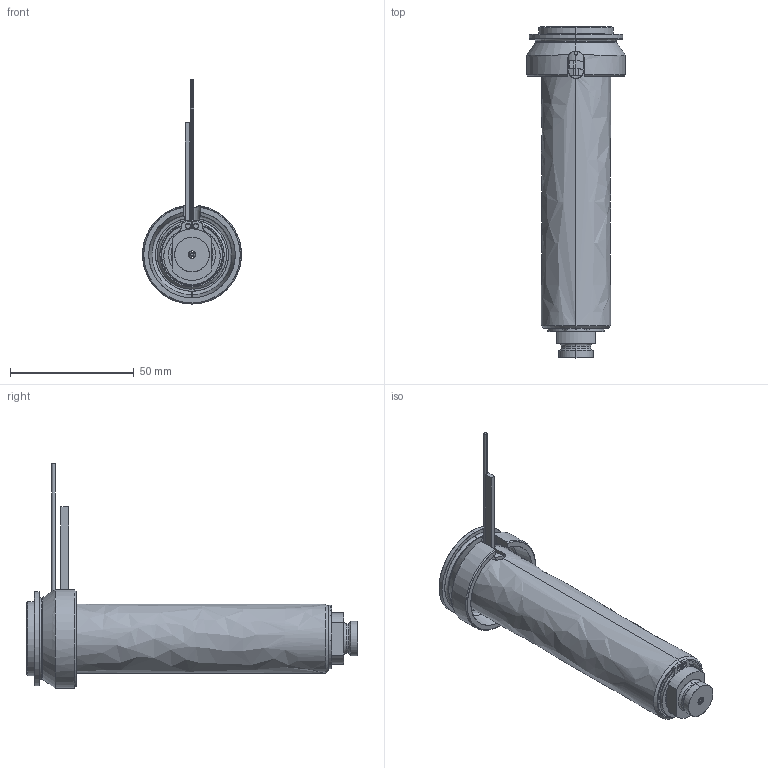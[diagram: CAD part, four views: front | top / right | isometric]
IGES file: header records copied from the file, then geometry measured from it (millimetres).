
Start section: SolidWorks IGES file using analytic representation for surfaces
Global section: file name: C:\Documents and Settings\ws-20\Desktop\TEM\UGEP4103-M-A-0 [Øf-1.31 P-0 ØC-10].IGS; native system: SolidWorks 2012; preprocessor: SolidWorks 2012; author: ws-20; date: 120426.085902; units: millimetre
Bounding box: 40 x 134.25 x 90.65 mm (x, y, z)
Surface area: 41317.6 mm2 (no closed solid volume)
Topology: 0 solids, 0 shells, 113 faces, 1870 edges, 1870 vertices
Faces by surface type: revolution 64, bspline 49
